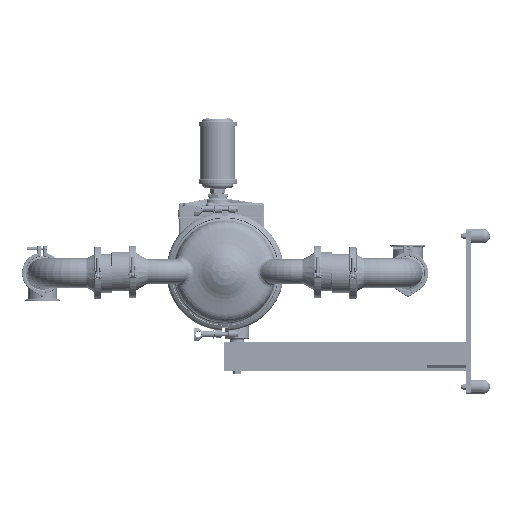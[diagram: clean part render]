
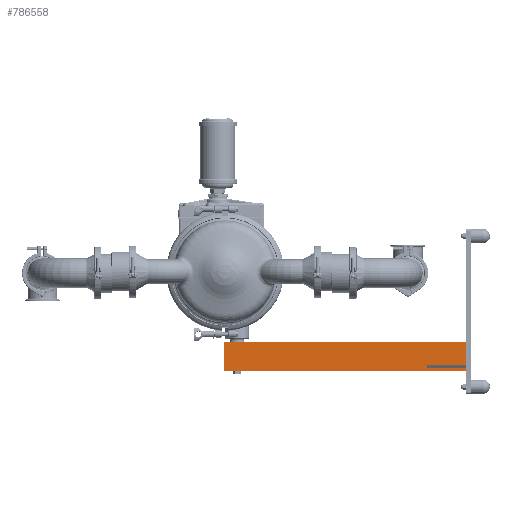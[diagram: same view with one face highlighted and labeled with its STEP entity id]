
A CAD part, left-side view. The second image highlights one B-rep face of the part: STEP entity #786558.
In plain terms, the highlighted planar face has unit normal (-1, 0, 0).
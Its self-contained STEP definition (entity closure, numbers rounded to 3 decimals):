
#783495=DIRECTION('',(0.,0.,-1.));
#783496=VECTOR('',#783495,2.39);
#783497=CARTESIAN_POINT('',(-1.,-24.72,-7.236));
#783498=LINE('',#783497,#783496);
#783527=DIRECTION('',(0.,0.,-1.));
#783528=VECTOR('',#783527,0.36);
#783529=CARTESIAN_POINT('',(-1.,-24.72,-9.876));
#783530=LINE('',#783529,#783528);
#784063=DIRECTION('',(0.,1.,0.));
#784064=VECTOR('',#784063,24.813);
#784065=CARTESIAN_POINT('',(-1.,-24.72,-10.236));
#784066=LINE('',#784065,#784064);
#784067=DIRECTION('',(0.,1.,0.));
#784068=VECTOR('',#784067,4.);
#784069=CARTESIAN_POINT('',(-1.,-24.72,-9.626));
#784070=LINE('',#784069,#784068);
#784071=DIRECTION('',(0.,0.,-1.));
#784072=VECTOR('',#784071,0.25);
#784073=CARTESIAN_POINT('',(-1.,-20.72,-9.626));
#784074=LINE('',#784073,#784072);
#784075=DIRECTION('',(0.,1.,0.));
#784076=VECTOR('',#784075,4.);
#784077=CARTESIAN_POINT('',(-1.,-24.72,-9.876));
#784078=LINE('',#784077,#784076);
#784109=DIRECTION('',(0.,1.,0.));
#784110=VECTOR('',#784109,24.813);
#784111=CARTESIAN_POINT('',(-1.,-24.72,-7.236));
#784112=LINE('',#784111,#784110);
#784135=DIRECTION('',(0.,0.,1.));
#784136=VECTOR('',#784135,3.);
#784137=CARTESIAN_POINT('',(-1.,0.093,-10.236));
#784138=LINE('',#784137,#784136);
#785368=CARTESIAN_POINT('',(-1.,-24.72,-10.236));
#785370=VERTEX_POINT('',#785368);
#785373=CARTESIAN_POINT('',(-1.,-24.72,-7.236));
#785375=VERTEX_POINT('',#785373);
#785396=CARTESIAN_POINT('',(-1.,-24.72,-9.626));
#785398=VERTEX_POINT('',#785396);
#785400=CARTESIAN_POINT('',(-1.,-24.72,-9.876));
#785402=VERTEX_POINT('',#785400);
#785404=CARTESIAN_POINT('',(-1.,-20.72,-9.626));
#785405=VERTEX_POINT('',#785404);
#785406=CARTESIAN_POINT('',(-1.,-20.72,-9.876));
#785407=VERTEX_POINT('',#785406);
#785409=CARTESIAN_POINT('',(-1.,0.093,-10.236));
#785411=VERTEX_POINT('',#785409);
#785412=CARTESIAN_POINT('',(-1.,0.093,-7.236));
#785413=VERTEX_POINT('',#785412);
#786540=CARTESIAN_POINT('',(-1.,-0.157,-7.236));
#786541=DIRECTION('',(-1.,0.,0.));
#786542=DIRECTION('',(0.,0.,-1.));
#786543=AXIS2_PLACEMENT_3D('',#786540,#786541,#786542);
#786544=PLANE('',#786543);
#786546=ORIENTED_EDGE('',*,*,#786545,.T.);
#786548=ORIENTED_EDGE('',*,*,#786547,.T.);
#786550=ORIENTED_EDGE('',*,*,#786549,.F.);
#786551=ORIENTED_EDGE('',*,*,#785817,.T.);
#786552=ORIENTED_EDGE('',*,*,#786509,.T.);
#786553=ORIENTED_EDGE('',*,*,#786522,.T.);
#786554=ORIENTED_EDGE('',*,*,#786534,.F.);
#786555=ORIENTED_EDGE('',*,*,#785833,.T.);
#786556=EDGE_LOOP('',(#786546,#786548,#786550,#786551,#786552,#786553,#786554,
#786555));
#786557=FACE_OUTER_BOUND('',#786556,.F.);
#786558=ADVANCED_FACE('',(#786557),#786544,.T.);
#785817=EDGE_CURVE('',#785375,#785398,#783498,.T.);
#785833=EDGE_CURVE('',#785402,#785370,#783530,.T.);
#786509=EDGE_CURVE('',#785398,#785405,#784070,.T.);
#786522=EDGE_CURVE('',#785405,#785407,#784074,.T.);
#786534=EDGE_CURVE('',#785402,#785407,#784078,.T.);
#786545=EDGE_CURVE('',#785370,#785411,#784066,.T.);
#786547=EDGE_CURVE('',#785411,#785413,#784138,.T.);
#786549=EDGE_CURVE('',#785375,#785413,#784112,.T.);
